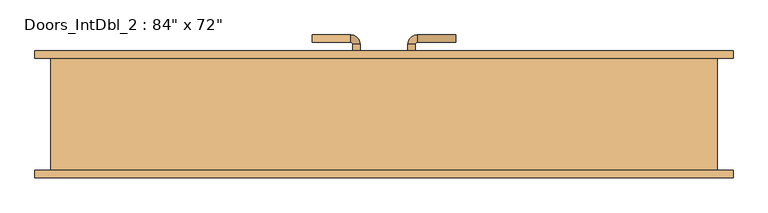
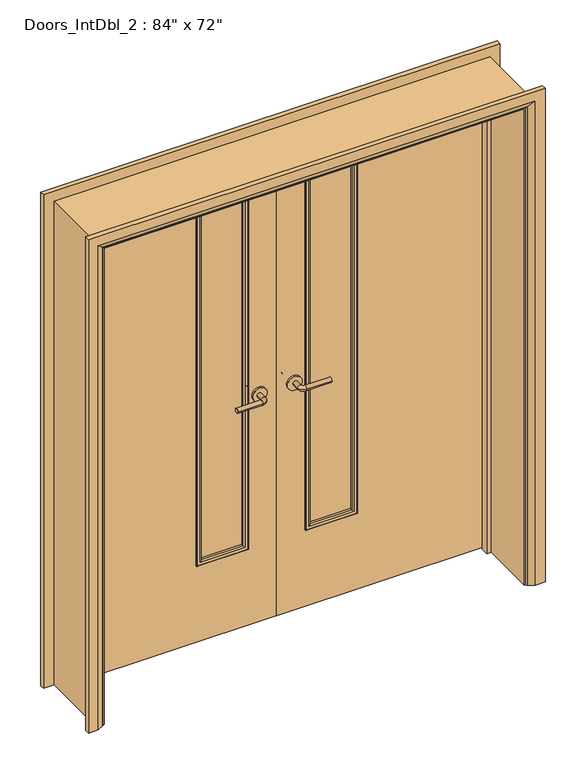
"""IFC4 building model written with IfcOpenShell, lengths in millimetres: door geometry."""

from ifc_helpers import new_model, si_unit, point, frame, frame_2d, origin, place, context, project, spatial, polyline, circle_curve, ellipse_curve, trimmed, segment, composite_curve, outline, extrude, faceted_brep, source, transform, mapped, element, save
from ifc_brep_helpers import plane_surface, cylinder_surface, revolved_surface, advanced_brep


def door_a87817a0(model_context):
    return source(origin(), model_context, "Body", "SolidModel", [
        advanced_brep(
        [(-65.0, 112.4, 1007.0), (-85.0, 112.4, 1007.0), (-65.0, 82.4, 1007.0), (-85.0, 82.4, 1007.0), (-90.0, 77.4, 1007.0), (-90.0, 57.4, 1007.0), (-195.0, 57.4, 1007.0), (-195.0, 77.4, 1007.0)],
        [
            (0, 1, circle_curve(frame((-75.0, 112.4, 1007.0), z_axis=(0.0, 1.0, 0.0), x_axis=(-1.0, 0.0, 0.0)), 10.0)),
            (1, 0, circle_curve(frame((-75.0, 112.4, 1007.0), z_axis=(0.0, 1.0, 0.0), x_axis=(-1.0, 0.0, 0.0)), 10.0)),
            (0, 2),
            (2, 3, circle_curve(frame((-75.0, 82.4, 1007.0), z_axis=(0.0, 1.0, 0.0), x_axis=(-1.0, 0.0, 0.0)), 10.0)),
            (3, 1),
            (3, 2, circle_curve(frame((-75.0, 82.4, 1007.0), z_axis=(0.0, 1.0, 0.0), x_axis=(-1.0, 0.0, 0.0)), 10.0)),
            (4, 3, circle_curve(frame((-90.0, 82.4, 1007.0), z_axis=(0.0, 0.0, 1.0), x_axis=(1.0, 0.0, 0.0)), 5.0)),
            (2, 5, circle_curve(frame((-90.0, 82.4, 1007.0), z_axis=(0.0, 0.0, -1.0), x_axis=(1.0, 0.0, 0.0)), 25.0)),
            (5, 4, circle_curve(frame((-90.0, 67.4, 1007.0), z_axis=(1.0, 0.0, 0.0), x_axis=(0.0, 1.0, 0.0)), 10.0)),
            (4, 5, circle_curve(frame((-90.0, 67.4, 1007.0), z_axis=(1.0, 0.0, 0.0), x_axis=(0.0, 1.0, 0.0)), 10.0)),
            (6, 7, circle_curve(frame((-195.0, 67.4, 1007.0), z_axis=(-1.0, 0.0, 0.0), x_axis=(0.0, 1.0, 0.0)), 10.0)),
            (7, 6, circle_curve(frame((-195.0, 67.4, 1007.0), z_axis=(-1.0, 0.0, 0.0), x_axis=(0.0, 1.0, 0.0)), 10.0)),
            (5, 6),
            (7, 4),
        ],
        [
            plane_surface(frame((-75.0, 112.4, 1007.0), z_axis=(0.0, 1.0, 0.0), x_axis=(0.0, 0.0, 1.0))),
            cylinder_surface(frame((-75.0, 112.4, 1007.0), z_axis=(0.0, 1.0, 0.0), x_axis=(-1.0, 0.0, 0.0)), 10.0),
            revolved_surface(trimmed(ellipse_curve(frame((-75.0, 82.4, 1007.0), z_axis=(0.0, 1.0, 0.0), x_axis=(-1.0, 0.0, 0.0)), 10.0, 10.0), [point((-65.0, 82.4, 1007.0))], [point((-85.0, 82.4, 1007.0))], True, "CARTESIAN"), (-90.0, 82.4, 1007.0), (0.0, 0.0, -1.0)),
            revolved_surface(trimmed(ellipse_curve(frame((-75.0, 82.4, 1007.0), z_axis=(0.0, 1.0, 0.0), x_axis=(-1.0, 0.0, 0.0)), 10.0, 10.0), [point((-85.0, 82.4, 1007.0))], [point((-65.0, 82.4, 1007.0))], True, "CARTESIAN"), (-90.0, 82.4, 1007.0), (0.0, 0.0, -1.0)),
            plane_surface(frame((-195.0, 67.4, 1007.0), z_axis=(-1.0, 0.0, 0.0), x_axis=(0.0, 0.0, 1.0))),
            cylinder_surface(frame((-90.0, 67.4, 1007.0), z_axis=(1.0, 0.0, 0.0), x_axis=(0.0, 1.0, 0.0)), 10.0),
        ],
        [
            (0, [[1, 2]]),
            (1, [[-1, 3, 4, 5]]),
            (1, [[-2, -5, 6, -3]]),
            (2, [[7, -4, 8, 9]]),
            (3, [[-8, -6, -7, 10]]),
            (4, [[11, 12]]),
            (5, [[-9, 13, -12, 14]]),
            (5, [[-10, -14, -11, -13]]),
        ],
    ),
        extrude(outline(composite_curve([segment(trimmed(circle_curve(frame_2d((1007.0, -72.5)), 30.0), [point((1007.0, -42.5))], [point((1007.0, -102.5))], False, "CARTESIAN"), True, "CONTINUOUS"), segment(trimmed(circle_curve(frame_2d((1007.0, -72.5)), 30.0), [point((1007.0, -102.5))], [point((1007.0, -42.5))], False, "CARTESIAN"), True, "CONTINUOUS")], self_intersect=False)), frame((0.0, 112.4, 0.0), z_axis=(0.0, 1.0, 0.0), x_axis=(0.0, 0.0, 1.0)), (0.0, 0.0, 1.0), 8.0),
        advanced_brep(
        [(-65.0, 160.4, 1007.0), (-85.0, 160.4, 1007.0), (-85.0, 190.4, 1007.0), (-65.0, 190.4, 1007.0), (-90.0, 195.4, 1007.0), (-90.0, 215.4, 1007.0), (-195.0, 215.4, 1007.0), (-195.0, 195.4, 1007.0)],
        [
            (0, 1, circle_curve(frame((-75.0, 160.4, 1007.0), z_axis=(0.0, -1.0, 0.0), x_axis=(-1.0, 0.0, 0.0)), 10.0)),
            (1, 0, circle_curve(frame((-75.0, 160.4, 1007.0), z_axis=(0.0, -1.0, 0.0), x_axis=(-1.0, 0.0, 0.0)), 10.0)),
            (1, 2),
            (2, 3, circle_curve(frame((-75.0, 190.4, 1007.0), z_axis=(0.0, -1.0, 0.0), x_axis=(-1.0, 0.0, 0.0)), 10.0)),
            (3, 0),
            (3, 2, circle_curve(frame((-75.0, 190.4, 1007.0), z_axis=(0.0, -1.0, 0.0), x_axis=(-1.0, 0.0, 0.0)), 10.0)),
            (4, 5, circle_curve(frame((-90.0, 205.4, 1007.0), z_axis=(1.0, 0.0, 0.0), x_axis=(0.0, -1.0, 0.0)), 10.0)),
            (5, 3, circle_curve(frame((-90.0, 190.4, 1007.0), z_axis=(0.0, 0.0, -1.0), x_axis=(1.0, 0.0, 0.0)), 25.0)),
            (2, 4, circle_curve(frame((-90.0, 190.4, 1007.0), z_axis=(0.0, 0.0, 1.0), x_axis=(1.0, 0.0, 0.0)), 5.0)),
            (5, 4, circle_curve(frame((-90.0, 205.4, 1007.0), z_axis=(1.0, 0.0, 0.0), x_axis=(0.0, -1.0, 0.0)), 10.0)),
            (6, 7, circle_curve(frame((-195.0, 205.4, 1007.0), z_axis=(-1.0, 0.0, 0.0), x_axis=(0.0, -1.0, 0.0)), 10.0)),
            (7, 6, circle_curve(frame((-195.0, 205.4, 1007.0), z_axis=(-1.0, 0.0, 0.0), x_axis=(0.0, -1.0, 0.0)), 10.0)),
            (4, 7),
            (6, 5),
        ],
        [
            plane_surface(frame((-75.0, 160.4, 1007.0), z_axis=(0.0, -1.0, 0.0), x_axis=(0.0, 0.0, 1.0))),
            cylinder_surface(frame((-75.0, 160.4, 1007.0), z_axis=(0.0, -1.0, 0.0), x_axis=(-1.0, 0.0, 0.0)), 10.0),
            revolved_surface(trimmed(ellipse_curve(frame((-75.0, 190.4, 1007.0), z_axis=(0.0, 1.0, 0.0), x_axis=(-1.0, 0.0, 0.0)), 10.0, 10.0), [point((-65.0, 190.4, 1007.0))], [point((-85.0, 190.4, 1007.0))], True, "CARTESIAN"), (-90.0, 190.4, 1007.0), (0.0, 0.0, -1.0)),
            revolved_surface(trimmed(ellipse_curve(frame((-75.0, 190.4, 1007.0), z_axis=(0.0, 1.0, 0.0), x_axis=(-1.0, 0.0, 0.0)), 10.0, 10.0), [point((-85.0, 190.4, 1007.0))], [point((-65.0, 190.4, 1007.0))], True, "CARTESIAN"), (-90.0, 190.4, 1007.0), (0.0, 0.0, -1.0)),
            plane_surface(frame((-195.0, 205.4, 1007.0), z_axis=(-1.0, 0.0, 0.0), x_axis=(0.0, 0.0, 1.0))),
            cylinder_surface(frame((-90.0, 205.4, 1007.0), z_axis=(1.0, 0.0, 0.0), x_axis=(0.0, -1.0, 0.0)), 10.0),
        ],
        [
            (0, [[1, 2]]),
            (1, [[3, 4, 5, -2]]),
            (1, [[-5, 6, -3, -1]]),
            (2, [[7, 8, -4, 9]]),
            (3, [[10, -9, -6, -8]]),
            (4, [[11, 12]]),
            (5, [[13, -11, 14, -7]]),
            (5, [[-14, -12, -13, -10]]),
        ],
    ),
        extrude(outline(composite_curve([segment(trimmed(circle_curve(frame_2d((1007.0, -72.5)), 30.0), [point((1007.0, -42.5))], [point((1007.0, -102.5))], False, "CARTESIAN"), True, "CONTINUOUS"), segment(trimmed(circle_curve(frame_2d((1007.0, -72.5)), 30.0), [point((1007.0, -102.5))], [point((1007.0, -42.5))], False, "CARTESIAN"), True, "CONTINUOUS")], self_intersect=False)), frame((0.0, 152.4, 0.0), z_axis=(0.0, 1.0, 0.0), x_axis=(0.0, 0.0, 1.0)), (0.0, 0.0, 1.0), 8.0),
        advanced_brep(
        [(65.0, 112.4, 1007.0), (85.0, 112.4, 1007.0), (85.0, 82.4, 1007.0), (65.0, 82.4, 1007.0), (90.0, 77.4, 1007.0), (90.0, 57.4, 1007.0), (195.0, 57.4, 1007.0), (195.0, 77.4, 1007.0)],
        [
            (0, 1, circle_curve(frame((75.0, 112.4, 1007.0), z_axis=(0.0, 1.0, 0.0), x_axis=(1.0, 0.0, 0.0)), 10.0)),
            (1, 0, circle_curve(frame((75.0, 112.4, 1007.0), z_axis=(0.0, 1.0, 0.0), x_axis=(1.0, 0.0, 0.0)), 10.0)),
            (1, 2),
            (2, 3, circle_curve(frame((75.0, 82.4, 1007.0), z_axis=(0.0, 1.0, 0.0), x_axis=(1.0, 0.0, 0.0)), 10.0)),
            (3, 0),
            (3, 2, circle_curve(frame((75.0, 82.4, 1007.0), z_axis=(0.0, 1.0, 0.0), x_axis=(1.0, 0.0, 0.0)), 10.0)),
            (4, 5, circle_curve(frame((90.0, 67.4, 1007.0), z_axis=(-1.0, 0.0, 0.0), x_axis=(0.0, 1.0, 0.0)), 10.0)),
            (5, 3, circle_curve(frame((90.0, 82.4, 1007.0), z_axis=(0.0, 0.0, -1.0), x_axis=(-1.0, 0.0, 0.0)), 25.0)),
            (2, 4, circle_curve(frame((90.0, 82.4, 1007.0), z_axis=(0.0, 0.0, 1.0), x_axis=(-1.0, 0.0, 0.0)), 5.0)),
            (5, 4, circle_curve(frame((90.0, 67.4, 1007.0), z_axis=(-1.0, 0.0, 0.0), x_axis=(0.0, 1.0, 0.0)), 10.0)),
            (6, 7, circle_curve(frame((195.0, 67.4, 1007.0), z_axis=(1.0, 0.0, 0.0), x_axis=(0.0, 1.0, 0.0)), 10.0)),
            (7, 6, circle_curve(frame((195.0, 67.4, 1007.0), z_axis=(1.0, 0.0, 0.0), x_axis=(0.0, 1.0, 0.0)), 10.0)),
            (4, 7),
            (6, 5),
        ],
        [
            plane_surface(frame((75.0, 112.4, 1007.0), z_axis=(0.0, 1.0, 0.0), x_axis=(0.0, 0.0, 1.0))),
            cylinder_surface(frame((75.0, 112.4, 1007.0), z_axis=(0.0, 1.0, 0.0), x_axis=(1.0, 0.0, 0.0)), 10.0),
            revolved_surface(trimmed(ellipse_curve(frame((75.0, 82.4, 1007.0), z_axis=(0.0, -1.0, 0.0), x_axis=(1.0, 0.0, 0.0)), 10.0, 10.0), [point((65.0, 82.4, 1007.0))], [point((85.0, 82.4, 1007.0))], True, "CARTESIAN"), (90.0, 82.4, 1007.0), (0.0, 0.0, -1.0)),
            revolved_surface(trimmed(ellipse_curve(frame((75.0, 82.4, 1007.0), z_axis=(0.0, -1.0, 0.0), x_axis=(1.0, 0.0, 0.0)), 10.0, 10.0), [point((85.0, 82.4, 1007.0))], [point((65.0, 82.4, 1007.0))], True, "CARTESIAN"), (90.0, 82.4, 1007.0), (0.0, 0.0, -1.0)),
            plane_surface(frame((195.0, 67.4, 1007.0), z_axis=(1.0, 0.0, 0.0), x_axis=(0.0, 0.0, 1.0))),
            cylinder_surface(frame((90.0, 67.4, 1007.0), z_axis=(-1.0, 0.0, 0.0), x_axis=(0.0, 1.0, 0.0)), 10.0),
        ],
        [
            (0, [[1, 2]]),
            (1, [[3, 4, 5, -2]]),
            (1, [[-5, 6, -3, -1]]),
            (2, [[7, 8, -4, 9]]),
            (3, [[10, -9, -6, -8]]),
            (4, [[11, 12]]),
            (5, [[13, -11, 14, -7]]),
            (5, [[-14, -12, -13, -10]]),
        ],
    ),
        extrude(outline(composite_curve([segment(trimmed(circle_curve(frame_2d((1007.0, 72.5)), 30.0), [point((1007.0, 42.5))], [point((1007.0, 102.5))], False, "CARTESIAN"), True, "CONTINUOUS"), segment(trimmed(circle_curve(frame_2d((1007.0, 72.5)), 30.0), [point((1007.0, 102.5))], [point((1007.0, 42.5))], False, "CARTESIAN"), True, "CONTINUOUS")], self_intersect=False)), frame((0.0, 112.4, 0.0), z_axis=(0.0, 1.0, 0.0), x_axis=(0.0, 0.0, 1.0)), (0.0, 0.0, 1.0), 8.0),
        advanced_brep(
        [(65.0, 160.4, 1007.0), (85.0, 160.4, 1007.0), (65.0, 190.4, 1007.0), (85.0, 190.4, 1007.0), (90.0, 195.4, 1007.0), (90.0, 215.4, 1007.0), (195.0, 215.4, 1007.0), (195.0, 195.4, 1007.0)],
        [
            (0, 1, circle_curve(frame((75.0, 160.4, 1007.0), z_axis=(0.0, -1.0, 0.0), x_axis=(1.0, 0.0, 0.0)), 10.0)),
            (1, 0, circle_curve(frame((75.0, 160.4, 1007.0), z_axis=(0.0, -1.0, 0.0), x_axis=(1.0, 0.0, 0.0)), 10.0)),
            (0, 2),
            (2, 3, circle_curve(frame((75.0, 190.4, 1007.0), z_axis=(0.0, -1.0, 0.0), x_axis=(1.0, 0.0, 0.0)), 10.0)),
            (3, 1),
            (3, 2, circle_curve(frame((75.0, 190.4, 1007.0), z_axis=(0.0, -1.0, 0.0), x_axis=(1.0, 0.0, 0.0)), 10.0)),
            (4, 3, circle_curve(frame((90.0, 190.4, 1007.0), z_axis=(0.0, 0.0, 1.0), x_axis=(-1.0, 0.0, 0.0)), 5.0)),
            (2, 5, circle_curve(frame((90.0, 190.4, 1007.0), z_axis=(0.0, 0.0, -1.0), x_axis=(-1.0, 0.0, 0.0)), 25.0)),
            (5, 4, circle_curve(frame((90.0, 205.4, 1007.0), z_axis=(-1.0, 0.0, 0.0), x_axis=(0.0, -1.0, 0.0)), 10.0)),
            (4, 5, circle_curve(frame((90.0, 205.4, 1007.0), z_axis=(-1.0, 0.0, 0.0), x_axis=(0.0, -1.0, 0.0)), 10.0)),
            (6, 7, circle_curve(frame((195.0, 205.4, 1007.0), z_axis=(1.0, 0.0, 0.0), x_axis=(0.0, -1.0, 0.0)), 10.0)),
            (7, 6, circle_curve(frame((195.0, 205.4, 1007.0), z_axis=(1.0, 0.0, 0.0), x_axis=(0.0, -1.0, 0.0)), 10.0)),
            (5, 6),
            (7, 4),
        ],
        [
            plane_surface(frame((75.0, 160.4, 1007.0), z_axis=(0.0, -1.0, 0.0), x_axis=(0.0, 0.0, 1.0))),
            cylinder_surface(frame((75.0, 160.4, 1007.0), z_axis=(0.0, -1.0, 0.0), x_axis=(1.0, 0.0, 0.0)), 10.0),
            revolved_surface(trimmed(ellipse_curve(frame((75.0, 190.4, 1007.0), z_axis=(0.0, -1.0, 0.0), x_axis=(1.0, 0.0, 0.0)), 10.0, 10.0), [point((65.0, 190.4, 1007.0))], [point((85.0, 190.4, 1007.0))], True, "CARTESIAN"), (90.0, 190.4, 1007.0), (0.0, 0.0, -1.0)),
            revolved_surface(trimmed(ellipse_curve(frame((75.0, 190.4, 1007.0), z_axis=(0.0, -1.0, 0.0), x_axis=(1.0, 0.0, 0.0)), 10.0, 10.0), [point((85.0, 190.4, 1007.0))], [point((65.0, 190.4, 1007.0))], True, "CARTESIAN"), (90.0, 190.4, 1007.0), (0.0, 0.0, -1.0)),
            plane_surface(frame((195.0, 205.4, 1007.0), z_axis=(1.0, 0.0, 0.0), x_axis=(0.0, 0.0, 1.0))),
            cylinder_surface(frame((90.0, 205.4, 1007.0), z_axis=(-1.0, 0.0, 0.0), x_axis=(0.0, -1.0, 0.0)), 10.0),
        ],
        [
            (0, [[1, 2]]),
            (1, [[-1, 3, 4, 5]]),
            (1, [[-2, -5, 6, -3]]),
            (2, [[7, -4, 8, 9]]),
            (3, [[-8, -6, -7, 10]]),
            (4, [[11, 12]]),
            (5, [[-9, 13, -12, 14]]),
            (5, [[-10, -14, -11, -13]]),
        ],
    ),
        extrude(outline(composite_curve([segment(trimmed(circle_curve(frame_2d((1007.0, 72.5)), 30.0), [point((1007.0, 42.5))], [point((1007.0, 102.5))], False, "CARTESIAN"), True, "CONTINUOUS"), segment(trimmed(circle_curve(frame_2d((1007.0, 72.5)), 30.0), [point((1007.0, 102.5))], [point((1007.0, 42.5))], False, "CARTESIAN"), True, "CONTINUOUS")], self_intersect=False)), frame((0.0, 152.4, 0.0), z_axis=(0.0, 1.0, 0.0), x_axis=(0.0, 0.0, 1.0)), (0.0, 0.0, 1.0), 8.0),
        advanced_brep(
        [(-949.4, -172.4, 0.0), (-949.4, -152.4, 0.0), (-879.4, -152.4, 0.0), (-883.4, -158.4, 0.0), (-909.4, -172.4, 0.0), (-949.4, -172.4, 2168.6), (-949.4, -152.4, 2168.6), (949.4, -152.4, 2168.6), (949.4, -152.4, 0.0), (879.4, -152.4, 0.0), (879.4, -152.4, 2098.6), (-879.4, -152.4, 2098.6), (-883.4, -158.4, 2102.6), (-909.4, -172.4, 2128.6), (909.4, -172.4, 2128.6), (909.4, -172.4, 0.0), (949.4, -172.4, 0.0), (949.4, -172.4, 2168.6), (883.4, -158.4, 0.0), (883.4, -158.4, 2102.6)],
        [
            (0, 1),
            (1, 2),
            (2, 3, circle_curve(frame((-887.4, -151.4, 0.0), z_axis=(0.0, 0.0, -1.0), x_axis=(-1.0, 0.0, 0.0)), 8.0622577)),
            (3, 4),
            (4, 0),
            (0, 5),
            (5, 6),
            (6, 1),
            (6, 7),
            (7, 8),
            (8, 9),
            (9, 10),
            (10, 11),
            (11, 2),
            (11, 12, ellipse_curve(frame((-887.4, -151.4, 2106.6), z_axis=(-0.7071067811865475, 0.0, -0.7071067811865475), x_axis=(0.7071067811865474, 0.0, -0.7071067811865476)), 11.4017543, 8.0622577)),
            (12, 3),
            (12, 13),
            (13, 4),
            (13, 14),
            (14, 15),
            (15, 16),
            (16, 17),
            (17, 5),
            (7, 17),
            (16, 8),
            (15, 18),
            (18, 9, circle_curve(frame((887.4, -151.4, 0.0), z_axis=(0.0, 0.0, -1.0), x_axis=(1.0, 0.0, 0.0)), 8.0622577)),
            (19, 10, ellipse_curve(frame((887.4, -151.4, 2106.6), z_axis=(0.7071067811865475, 0.0, -0.7071067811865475), x_axis=(0.7071067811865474, 0.0, 0.7071067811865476)), 11.4017543, 8.0622577)),
            (18, 19),
            (14, 19),
            (19, 12),
        ],
        [
            plane_surface(frame((-879.4, -152.4, 0.0), z_axis=(0.0, 0.0, -1.0), x_axis=(0.0, -1.0, 0.0))),
            plane_surface(frame((-949.4, -172.4, 0.0), z_axis=(-1.0, 0.0, 0.0), x_axis=(0.0, 0.0, 1.0))),
            plane_surface(frame((-949.4, -152.4, 0.0), z_axis=(0.0, 1.0, 0.0), x_axis=(0.0, 0.0, 1.0))),
            cylinder_surface(frame((-887.4, -151.4, 0.0), z_axis=(0.0, 0.0, -1.0), x_axis=(-1.0, 0.0, 0.0)), 8.0622577),
            plane_surface(frame((-883.4, -158.4, 0.0), z_axis=(0.4740998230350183, -0.8804710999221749, 0.0), x_axis=(0.0, 0.0, 1.0))),
            plane_surface(frame((-909.4, -172.4, 0.0), z_axis=(0.0, -1.0, 0.0), x_axis=(0.0, 0.0, 1.0))),
            plane_surface(frame((949.4, -172.4, 2168.6), z_axis=(1.0, 0.0, 0.0), x_axis=(0.0, 0.0, -1.0))),
            plane_surface(frame((879.4, -152.4, 0.0), z_axis=(0.0, 0.0, -1.0), x_axis=(0.0, -1.0, 0.0))),
            cylinder_surface(frame((887.4, -151.4, 2098.6), z_axis=(0.0, 0.0, 1.0), x_axis=(1.0, 0.0, 0.0)), 8.0622577),
            plane_surface(frame((883.4, -158.4, 2102.6), z_axis=(-0.4740998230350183, -0.8804710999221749, 0.0), x_axis=(0.0, 0.0, -1.0))),
            plane_surface(frame((-949.4, -172.4, 2168.6), z_axis=(0.0, 0.0, 1.0), x_axis=(1.0, 0.0, 0.0))),
            cylinder_surface(frame((-879.4, -151.4, 2106.6), z_axis=(-1.0, 0.0, 0.0), x_axis=(0.0, 0.0, 1.0)), 8.0622577),
            plane_surface(frame((-883.4, -158.4, 2102.6), z_axis=(0.0, -0.8804710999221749, -0.4740998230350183), x_axis=(1.0, 0.0, 0.0))),
        ],
        [
            (0, [[1, 2, 3, 4, 5]]),
            (1, [[-1, 6, 7, 8]]),
            (2, [[-2, -8, 9, 10, 11, 12, 13, 14]]),
            (3, [[-3, -14, 15, 16]]),
            (4, [[-4, -16, 17, 18]]),
            (5, [[-5, -18, 19, 20, 21, 22, 23, -6]]),
            (6, [[24, -22, 25, -10]]),
            (7, [[-21, 26, 27, -11, -25]]),
            (8, [[28, -12, -27, 29]]),
            (9, [[30, -29, -26, -20]]),
            (10, [[-7, -23, -24, -9]]),
            (11, [[-15, -13, -28, 31]]),
            (12, [[-17, -31, -30, -19]]),
        ],
    ),
        advanced_brep(
        [(949.4, 172.4, 0.0), (949.4, 152.4, 0.0), (879.4, 152.4, 0.0), (883.4, 158.4, 0.0), (909.4, 172.4, 0.0), (949.4, 172.4, 2168.6), (949.4, 152.4, 2168.6), (-949.4, 152.4, 2168.6), (-949.4, 152.4, 0.0), (-879.4, 152.4, 0.0), (-879.4, 152.4, 2098.6), (879.4, 152.4, 2098.6), (883.4, 158.4, 2102.6), (909.4, 172.4, 2128.6), (-909.4, 172.4, 2128.6), (-909.4, 172.4, 0.0), (-949.4, 172.4, 0.0), (-949.4, 172.4, 2168.6), (-883.4, 158.4, 0.0), (-883.4, 158.4, 2102.6)],
        [
            (0, 1),
            (1, 2),
            (2, 3, circle_curve(frame((887.4, 151.4, 0.0), z_axis=(0.0, 0.0, -1.0), x_axis=(1.0, 0.0, 0.0)), 8.0622577)),
            (3, 4),
            (4, 0),
            (0, 5),
            (5, 6),
            (6, 1),
            (6, 7),
            (7, 8),
            (8, 9),
            (9, 10),
            (10, 11),
            (11, 2),
            (11, 12, ellipse_curve(frame((887.4, 151.4, 2106.6), z_axis=(0.7071067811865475, 0.0, -0.7071067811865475), x_axis=(-0.7071067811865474, 0.0, -0.7071067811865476)), 11.4017543, 8.0622577)),
            (12, 3),
            (12, 13),
            (13, 4),
            (13, 14),
            (14, 15),
            (15, 16),
            (16, 17),
            (17, 5),
            (7, 17),
            (16, 8),
            (15, 18),
            (18, 9, circle_curve(frame((-887.4, 151.4, 0.0), z_axis=(0.0, 0.0, -1.0), x_axis=(-1.0, 0.0, 0.0)), 8.0622577)),
            (19, 10, ellipse_curve(frame((-887.4, 151.4, 2106.6), z_axis=(-0.7071067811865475, 0.0, -0.7071067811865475), x_axis=(-0.7071067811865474, 0.0, 0.7071067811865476)), 11.4017543, 8.0622577)),
            (18, 19),
            (14, 19),
            (19, 12),
        ],
        [
            plane_surface(frame((879.4, 152.4, 0.0), z_axis=(0.0, 0.0, -1.0), x_axis=(0.0, -1.0, 0.0))),
            plane_surface(frame((949.4, 172.4, 0.0), z_axis=(1.0, 0.0, 0.0), x_axis=(0.0, 0.0, 1.0))),
            plane_surface(frame((949.4, 152.4, 0.0), z_axis=(0.0, -1.0, 0.0), x_axis=(0.0, 0.0, 1.0))),
            cylinder_surface(frame((887.4, 151.4, 0.0), z_axis=(0.0, 0.0, -1.0), x_axis=(1.0, 0.0, 0.0)), 8.0622577),
            plane_surface(frame((883.4, 158.4, 0.0), z_axis=(-0.4740998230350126, 0.8804710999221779, 0.0), x_axis=(0.0, 0.0, 1.0))),
            plane_surface(frame((909.4, 172.4, 0.0), z_axis=(0.0, 1.0, 0.0), x_axis=(0.0, 0.0, 1.0))),
            plane_surface(frame((-949.4, 172.4, 2168.6), z_axis=(-1.0, 0.0, 0.0), x_axis=(0.0, 0.0, -1.0))),
            plane_surface(frame((-879.4, 152.4, 0.0), z_axis=(0.0, 0.0, -1.0), x_axis=(0.0, -1.0, 0.0))),
            cylinder_surface(frame((-887.4, 151.4, 2098.6), z_axis=(0.0, 0.0, 1.0), x_axis=(-1.0, 0.0, 0.0)), 8.0622577),
            plane_surface(frame((-883.4, 158.4, 2102.6), z_axis=(0.4740998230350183, 0.8804710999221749, 0.0), x_axis=(0.0, 0.0, -1.0))),
            plane_surface(frame((949.4, 172.4, 2168.6), z_axis=(0.0, 0.0, 1.0), x_axis=(-1.0, 0.0, 0.0))),
            cylinder_surface(frame((879.4, 151.4, 2106.6), z_axis=(1.0, 0.0, 0.0), x_axis=(0.0, 0.0, 1.0)), 8.0622577),
            plane_surface(frame((883.4, 158.4, 2102.6), z_axis=(0.0, 0.8804710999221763, -0.4740998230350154), x_axis=(-1.0, 0.0, 0.0))),
        ],
        [
            (0, [[1, 2, 3, 4, 5]]),
            (1, [[-1, 6, 7, 8]]),
            (2, [[-2, -8, 9, 10, 11, 12, 13, 14]]),
            (3, [[-3, -14, 15, 16]]),
            (4, [[-4, -16, 17, 18]]),
            (5, [[-5, -18, 19, 20, 21, 22, 23, -6]]),
            (6, [[24, -22, 25, -10]]),
            (7, [[-21, 26, 27, -11, -25]]),
            (8, [[28, -12, -27, 29]]),
            (9, [[30, -29, -26, -20]]),
            (10, [[-7, -23, -24, -9]]),
            (11, [[-15, -13, -28, 31]]),
            (12, [[-17, -31, -30, -19]]),
        ],
    ),
        faceted_brep([(-855.4, 117.4, 0.0), (-855.4, 85.4, 0.0), (-874.4, 85.4, 0.0), (-874.4, 117.4, 0.0), (-855.4, 117.4, 2074.6), (-855.4, 85.4, 2074.6), (-874.4, 85.4, 2093.6), (-874.4, 117.4, 2093.6), (855.4, 117.4, 0.0), (874.4, 117.4, 0.0), (874.4, 85.4, 0.0), (855.4, 85.4, 0.0), (855.4, 117.4, 2074.6), (874.4, 117.4, 2093.6), (874.4, 85.4, 2093.6), (855.4, 85.4, 2074.6)], [[[0, 1, 2, 3]], [[1, 0, 4, 5]], [[2, 1, 5, 6]], [[3, 2, 6, 7]], [[0, 3, 7, 4]], [[8, 9, 10, 11]], [[12, 13, 9, 8]], [[13, 14, 10, 9]], [[14, 15, 11, 10]], [[15, 12, 8, 11]], [[5, 4, 12, 15]], [[6, 5, 15, 14]], [[7, 6, 14, 13]], [[4, 7, 13, 12]]]),
        extrude(outline(polyline([(2125.6, -906.4), (0.0, -906.4), (0.0, -874.4), (2093.6, -874.4), (2093.6, 874.4), (0.0, 874.4), (0.0, 906.4), (2125.6, 906.4), (2125.6, -906.4)])), frame((0.0, -152.4, 0.0), z_axis=(0.0, 1.0, 0.0), x_axis=(0.0, 0.0, 1.0)), (0.0, 0.0, 1.0), 304.8),
        extrude(outline(polyline([(326.5, 130.4), (126.5, 130.4), (126.5, 142.4), (326.5, 142.4), (326.5, 130.4)])), frame((0.0, 0.0, 350.0), z_axis=(0.0, 0.0, 1.0), x_axis=(1.0, 0.0, 0.0)), (0.0, 0.0, 1.0), 1558.6),
        extrude(outline(polyline([(-126.5, 130.4), (-326.5, 130.4), (-326.5, 142.4), (-126.5, 142.4), (-126.5, 130.4)])), frame((0.0, 0.0, 350.0), z_axis=(0.0, 0.0, 1.0), x_axis=(1.0, 0.0, 0.0)), (0.0, 0.0, 1.0), 1558.6),
        extrude(outline(polyline([(5.753223, -871.4), (5.753223, -1.5), (2090.6, -1.5), (2090.6, -871.4), (5.753223, -871.4)]), holes=[polyline([(1908.6, -326.5), (1908.6, -126.5), (350.0, -126.5), (350.0, -326.5), (1908.6, -326.5)])]), frame((0.0, 120.4, 0.0), z_axis=(0.0, 1.0, 0.0), x_axis=(0.0, 0.0, 1.0)), (0.0, 0.0, 1.0), 32.0),
        extrude(outline(polyline([(5.753223, 871.4), (2090.6, 871.4), (2090.6, 1.5), (5.753223, 1.5), (5.753223, 871.4)]), holes=[polyline([(1908.6, 126.5), (1908.6, 326.5), (350.0, 326.5), (350.0, 126.5), (1908.6, 126.5)])]), frame((0.0, 120.4, 0.0), z_axis=(0.0, 1.0, 0.0), x_axis=(0.0, 0.0, 1.0)), (0.0, 0.0, 1.0), 32.0),
        advanced_brep(
        [(326.5, 130.4, 1908.6), (326.5, 120.4, 1908.6), (326.5, 120.4, 350.0), (326.5, 130.4, 350.0), (314.5, 119.4, 1896.6), (314.5, 130.4, 1896.6), (314.5, 130.4, 362.0), (314.5, 119.4, 362.0), (319.5, 114.4, 1901.6), (319.5, 114.4, 357.0), (334.5, 116.4, 1916.6), (332.5, 114.4, 1914.6), (332.5, 114.4, 344.0), (334.5, 116.4, 342.0), (334.5, 120.4, 1916.6), (334.5, 120.4, 342.0), (126.5, 120.4, 350.0), (126.5, 130.4, 350.0), (138.5, 130.4, 362.0), (138.5, 119.4, 362.0), (133.5, 114.4, 357.0), (120.5, 114.4, 344.0), (118.5, 116.4, 342.0), (118.5, 120.4, 342.0), (126.5, 120.4, 1908.6), (126.5, 130.4, 1908.6), (138.5, 130.4, 1896.6), (138.5, 119.4, 1896.6), (133.5, 114.4, 1901.6), (120.5, 114.4, 1914.6), (118.5, 116.4, 1916.6), (118.5, 120.4, 1916.6)],
        [
            (0, 1),
            (1, 2),
            (2, 3),
            (3, 0),
            (4, 5),
            (5, 6),
            (6, 7),
            (7, 4),
            (8, 4, ellipse_curve(frame((319.5, 119.4, 1901.6), z_axis=(0.7071067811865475, 0.0, -0.7071067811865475), x_axis=(0.7071067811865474, 0.0, 0.7071067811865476)), 7.0710678, 5.0)),
            (7, 9, ellipse_curve(frame((319.5, 119.4, 357.0), z_axis=(0.7071067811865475, 0.0, 0.7071067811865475), x_axis=(-0.7071067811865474, 0.0, 0.7071067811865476)), 7.0710678, 5.0)),
            (9, 8),
            (10, 11, ellipse_curve(frame((332.5, 116.4, 1914.6), z_axis=(0.7071067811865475, 0.0, -0.7071067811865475), x_axis=(0.7071067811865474, 0.0, 0.7071067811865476)), 2.8284271, 2.0)),
            (11, 12),
            (12, 13, ellipse_curve(frame((332.5, 116.4, 344.0), z_axis=(0.7071067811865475, 0.0, 0.7071067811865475), x_axis=(-0.7071067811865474, 0.0, 0.7071067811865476)), 2.8284271, 2.0)),
            (13, 10),
            (14, 10),
            (13, 15),
            (15, 14),
            (2, 16),
            (16, 17),
            (17, 3),
            (6, 18),
            (18, 19),
            (19, 7),
            (19, 20, ellipse_curve(frame((133.5, 119.4, 357.0), z_axis=(0.7071067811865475, 0.0, -0.7071067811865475), x_axis=(0.7071067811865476, 0.0, 0.7071067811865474)), 7.0710678, 5.0)),
            (20, 9),
            (12, 21),
            (21, 22, ellipse_curve(frame((120.5, 116.4, 344.0), z_axis=(0.7071067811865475, 0.0, -0.7071067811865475), x_axis=(0.7071067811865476, 0.0, 0.7071067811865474)), 2.8284271, 2.0)),
            (22, 13),
            (22, 23),
            (23, 15),
            (16, 24),
            (24, 25),
            (25, 17),
            (18, 26),
            (26, 27),
            (27, 19),
            (27, 28, ellipse_curve(frame((133.5, 119.4, 1901.6), z_axis=(-0.7071067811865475, 0.0, -0.7071067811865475), x_axis=(0.7071067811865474, 0.0, -0.7071067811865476)), 7.0710678, 5.0)),
            (28, 20),
            (21, 29),
            (29, 30, ellipse_curve(frame((120.5, 116.4, 1914.6), z_axis=(-0.7071067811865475, 0.0, -0.7071067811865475), x_axis=(0.7071067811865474, 0.0, -0.7071067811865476)), 2.8284271, 2.0)),
            (30, 22),
            (30, 31),
            (31, 23),
            (31, 14),
            (1, 24),
            (0, 25),
            (5, 26),
            (4, 27),
            (8, 28),
            (11, 29),
            (10, 30),
        ],
        [
            plane_surface(frame((326.5, 120.4, 1908.6), z_axis=(1.0, 0.0, 0.0), x_axis=(0.0, 0.0, -1.0))),
            plane_surface(frame((314.5, 130.4, 1896.6), z_axis=(-1.0, 0.0, 0.0), x_axis=(0.0, 0.0, -1.0))),
            cylinder_surface(frame((319.5, 119.4, 1908.6), z_axis=(0.0, 0.0, 1.0), x_axis=(1.0, 0.0, 0.0)), 5.0),
            cylinder_surface(frame((332.5, 116.4, 1908.6), z_axis=(0.0, 0.0, 1.0), x_axis=(1.0, 0.0, 0.0)), 2.0),
            plane_surface(frame((334.5, 116.4, 1916.6), z_axis=(1.0, 0.0, 0.0), x_axis=(0.0, 0.0, -1.0))),
            plane_surface(frame((326.5, 120.4, 350.0), z_axis=(0.0, 0.0, -1.0), x_axis=(-1.0, 0.0, 0.0))),
            plane_surface(frame((314.5, 130.4, 362.0), z_axis=(0.0, 0.0, 1.0), x_axis=(-1.0, 0.0, 0.0))),
            cylinder_surface(frame((326.5, 119.4, 357.0), z_axis=(1.0, 0.0, 0.0), x_axis=(0.0, 0.0, -1.0)), 5.0),
            cylinder_surface(frame((326.5, 116.4, 344.0), z_axis=(1.0, 0.0, 0.0), x_axis=(0.0, 0.0, -1.0)), 2.0),
            plane_surface(frame((334.5, 116.4, 342.0), z_axis=(0.0, 0.0, -1.0), x_axis=(-1.0, 0.0, 0.0))),
            plane_surface(frame((126.5, 120.4, 350.0), z_axis=(-1.0, 0.0, 0.0), x_axis=(0.0, 0.0, 1.0))),
            plane_surface(frame((138.5, 130.4, 362.0), z_axis=(1.0, 0.0, 0.0), x_axis=(0.0, 0.0, 1.0))),
            cylinder_surface(frame((133.5, 119.4, 350.0), z_axis=(0.0, 0.0, -1.0), x_axis=(-1.0, 0.0, 0.0)), 5.0),
            cylinder_surface(frame((120.5, 116.4, 350.0), z_axis=(0.0, 0.0, -1.0), x_axis=(-1.0, 0.0, 0.0)), 2.0),
            plane_surface(frame((118.5, 116.4, 342.0), z_axis=(-1.0, 0.0, 0.0), x_axis=(0.0, 0.0, 1.0))),
            plane_surface(frame((118.5, 120.4, 1916.6), z_axis=(0.0, 1.0, 0.0), x_axis=(1.0, 0.0, 0.0))),
            plane_surface(frame((126.5, 120.4, 1908.6), z_axis=(0.0, 0.0, 1.0), x_axis=(1.0, 0.0, 0.0))),
            plane_surface(frame((126.5, 130.4, 1908.6), z_axis=(0.0, 1.0, 0.0), x_axis=(1.0, 0.0, 0.0))),
            plane_surface(frame((138.5, 130.4, 1896.6), z_axis=(0.0, 0.0, -1.0), x_axis=(1.0, 0.0, 0.0))),
            cylinder_surface(frame((126.5, 119.4, 1901.6), z_axis=(-1.0, 0.0, 0.0), x_axis=(0.0, 0.0, 1.0)), 5.0),
            plane_surface(frame((133.5, 114.4, 1901.6), z_axis=(0.0, -1.0, 0.0), x_axis=(1.0, 0.0, 0.0))),
            cylinder_surface(frame((126.5, 116.4, 1914.6), z_axis=(-1.0, 0.0, 0.0), x_axis=(0.0, 0.0, 1.0)), 2.0),
            plane_surface(frame((118.5, 116.4, 1916.6), z_axis=(0.0, 0.0, 1.0), x_axis=(1.0, 0.0, 0.0))),
        ],
        [
            (0, [[1, 2, 3, 4]]),
            (1, [[5, 6, 7, 8]]),
            (2, [[9, -8, 10, 11]]),
            (3, [[12, 13, 14, 15]]),
            (4, [[16, -15, 17, 18]]),
            (5, [[-3, 19, 20, 21]]),
            (6, [[-7, 22, 23, 24]]),
            (7, [[-10, -24, 25, 26]]),
            (8, [[-14, 27, 28, 29]]),
            (9, [[-17, -29, 30, 31]]),
            (10, [[-20, 32, 33, 34]]),
            (11, [[-23, 35, 36, 37]]),
            (12, [[-25, -37, 38, 39]]),
            (13, [[-28, 40, 41, 42]]),
            (14, [[-30, -42, 43, 44]]),
            (15, [[-31, -44, 45, -18], [46, -32, -19, -2]]),
            (16, [[-33, -46, -1, 47]]),
            (17, [[-21, -34, -47, -4], [48, -35, -22, -6]]),
            (18, [[-36, -48, -5, 49]]),
            (19, [[-38, -49, -9, 50]]),
            (20, [[51, -40, -27, -13], [-26, -39, -50, -11]]),
            (21, [[-41, -51, -12, 52]]),
            (22, [[-43, -52, -16, -45]]),
        ],
    ),
        advanced_brep(
        [(-326.5, 130.4, 350.0), (-326.5, 120.4, 350.0), (-326.5, 120.4, 1908.6), (-326.5, 130.4, 1908.6), (-314.5, 119.4, 362.0), (-314.5, 130.4, 362.0), (-314.5, 130.4, 1896.6), (-314.5, 119.4, 1896.6), (-319.5, 114.4, 357.0), (-319.5, 114.4, 1901.6), (-334.5, 116.4, 342.0), (-332.5, 114.4, 344.0), (-332.5, 114.4, 1914.6), (-334.5, 116.4, 1916.6), (-334.5, 120.4, 342.0), (-334.5, 120.4, 1916.6), (-126.5, 120.4, 1908.6), (-126.5, 130.4, 1908.6), (-138.5, 130.4, 1896.6), (-138.5, 119.4, 1896.6), (-133.5, 114.4, 1901.6), (-120.5, 114.4, 1914.6), (-118.5, 116.4, 1916.6), (-118.5, 120.4, 1916.6), (-126.5, 120.4, 350.0), (-126.5, 130.4, 350.0), (-138.5, 130.4, 362.0), (-138.5, 119.4, 362.0), (-133.5, 114.4, 357.0), (-120.5, 114.4, 344.0), (-118.5, 116.4, 342.0), (-118.5, 120.4, 342.0)],
        [
            (0, 1),
            (1, 2),
            (2, 3),
            (3, 0),
            (4, 5),
            (5, 6),
            (6, 7),
            (7, 4),
            (8, 4, ellipse_curve(frame((-319.5, 119.4, 357.0), z_axis=(-0.7071067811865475, 0.0, 0.7071067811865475), x_axis=(-0.7071067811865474, 0.0, -0.7071067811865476)), 7.0710678, 5.0)),
            (7, 9, ellipse_curve(frame((-319.5, 119.4, 1901.6), z_axis=(-0.7071067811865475, 0.0, -0.7071067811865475), x_axis=(0.7071067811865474, 0.0, -0.7071067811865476)), 7.0710678, 5.0)),
            (9, 8),
            (10, 11, ellipse_curve(frame((-332.5, 116.4, 344.0), z_axis=(-0.7071067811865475, 0.0, 0.7071067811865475), x_axis=(-0.7071067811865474, 0.0, -0.7071067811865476)), 2.8284271, 2.0)),
            (11, 12),
            (12, 13, ellipse_curve(frame((-332.5, 116.4, 1914.6), z_axis=(-0.7071067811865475, 0.0, -0.7071067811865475), x_axis=(0.7071067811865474, 0.0, -0.7071067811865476)), 2.8284271, 2.0)),
            (13, 10),
            (14, 10),
            (13, 15),
            (15, 14),
            (2, 16),
            (16, 17),
            (17, 3),
            (6, 18),
            (18, 19),
            (19, 7),
            (19, 20, ellipse_curve(frame((-133.5, 119.4, 1901.6), z_axis=(-0.7071067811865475, 0.0, 0.7071067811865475), x_axis=(-0.7071067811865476, 0.0, -0.7071067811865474)), 7.0710678, 5.0)),
            (20, 9),
            (12, 21),
            (21, 22, ellipse_curve(frame((-120.5, 116.4, 1914.6), z_axis=(-0.7071067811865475, 0.0, 0.7071067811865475), x_axis=(-0.7071067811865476, 0.0, -0.7071067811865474)), 2.8284271, 2.0)),
            (22, 13),
            (22, 23),
            (23, 15),
            (16, 24),
            (24, 25),
            (25, 17),
            (18, 26),
            (26, 27),
            (27, 19),
            (27, 28, ellipse_curve(frame((-133.5, 119.4, 357.0), z_axis=(0.7071067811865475, 0.0, 0.7071067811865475), x_axis=(-0.7071067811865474, 0.0, 0.7071067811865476)), 7.0710678, 5.0)),
            (28, 20),
            (21, 29),
            (29, 30, ellipse_curve(frame((-120.5, 116.4, 344.0), z_axis=(0.7071067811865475, 0.0, 0.7071067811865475), x_axis=(-0.7071067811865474, 0.0, 0.7071067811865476)), 2.8284271, 2.0)),
            (30, 22),
            (30, 31),
            (31, 23),
            (31, 14),
            (1, 24),
            (0, 25),
            (5, 26),
            (4, 27),
            (8, 28),
            (11, 29),
            (10, 30),
        ],
        [
            plane_surface(frame((-326.5, 120.4, 350.0), z_axis=(-1.0, 0.0, 0.0), x_axis=(0.0, 0.0, 1.0))),
            plane_surface(frame((-314.5, 130.4, 362.0), z_axis=(1.0, 0.0, 0.0), x_axis=(0.0, 0.0, 1.0))),
            cylinder_surface(frame((-319.5, 119.4, 350.0), z_axis=(0.0, 0.0, -1.0), x_axis=(-1.0, 0.0, 0.0)), 5.0),
            cylinder_surface(frame((-332.5, 116.4, 350.0), z_axis=(0.0, 0.0, -1.0), x_axis=(-1.0, 0.0, 0.0)), 2.0),
            plane_surface(frame((-334.5, 116.4, 342.0), z_axis=(-1.0, 0.0, 0.0), x_axis=(0.0, 0.0, 1.0))),
            plane_surface(frame((-326.5, 120.4, 1908.6), z_axis=(0.0, 0.0, 1.0), x_axis=(1.0, 0.0, 0.0))),
            plane_surface(frame((-314.5, 130.4, 1896.6), z_axis=(0.0, 0.0, -1.0), x_axis=(1.0, 0.0, 0.0))),
            cylinder_surface(frame((-326.5, 119.4, 1901.6), z_axis=(-1.0, 0.0, 0.0), x_axis=(0.0, 0.0, 1.0)), 5.0),
            cylinder_surface(frame((-326.5, 116.4, 1914.6), z_axis=(-1.0, 0.0, 0.0), x_axis=(0.0, 0.0, 1.0)), 2.0),
            plane_surface(frame((-334.5, 116.4, 1916.6), z_axis=(0.0, 0.0, 1.0), x_axis=(1.0, 0.0, 0.0))),
            plane_surface(frame((-126.5, 120.4, 1908.6), z_axis=(1.0, 0.0, 0.0), x_axis=(0.0, 0.0, -1.0))),
            plane_surface(frame((-138.5, 130.4, 1896.6), z_axis=(-1.0, 0.0, 0.0), x_axis=(0.0, 0.0, -1.0))),
            cylinder_surface(frame((-133.5, 119.4, 1908.6), z_axis=(0.0, 0.0, 1.0), x_axis=(1.0, 0.0, 0.0)), 5.0),
            cylinder_surface(frame((-120.5, 116.4, 1908.6), z_axis=(0.0, 0.0, 1.0), x_axis=(1.0, 0.0, 0.0)), 2.0),
            plane_surface(frame((-118.5, 116.4, 1916.6), z_axis=(1.0, 0.0, 0.0), x_axis=(0.0, 0.0, -1.0))),
            plane_surface(frame((-118.5, 120.4, 342.0), z_axis=(0.0, 1.0, 0.0), x_axis=(-1.0, 0.0, 0.0))),
            plane_surface(frame((-126.5, 120.4, 350.0), z_axis=(0.0, 0.0, -1.0), x_axis=(-1.0, 0.0, 0.0))),
            plane_surface(frame((-126.5, 130.4, 350.0), z_axis=(0.0, 1.0, 0.0), x_axis=(-1.0, 0.0, 0.0))),
            plane_surface(frame((-138.5, 130.4, 362.0), z_axis=(0.0, 0.0, 1.0), x_axis=(-1.0, 0.0, 0.0))),
            cylinder_surface(frame((-126.5, 119.4, 357.0), z_axis=(1.0, 0.0, 0.0), x_axis=(0.0, 0.0, -1.0)), 5.0),
            plane_surface(frame((-133.5, 114.4, 357.0), z_axis=(0.0, -1.0, 0.0), x_axis=(-1.0, 0.0, 0.0))),
            cylinder_surface(frame((-126.5, 116.4, 344.0), z_axis=(1.0, 0.0, 0.0), x_axis=(0.0, 0.0, -1.0)), 2.0),
            plane_surface(frame((-118.5, 116.4, 342.0), z_axis=(0.0, 0.0, -1.0), x_axis=(-1.0, 0.0, 0.0))),
        ],
        [
            (0, [[1, 2, 3, 4]]),
            (1, [[5, 6, 7, 8]]),
            (2, [[9, -8, 10, 11]]),
            (3, [[12, 13, 14, 15]]),
            (4, [[16, -15, 17, 18]]),
            (5, [[-3, 19, 20, 21]]),
            (6, [[-7, 22, 23, 24]]),
            (7, [[-10, -24, 25, 26]]),
            (8, [[-14, 27, 28, 29]]),
            (9, [[-17, -29, 30, 31]]),
            (10, [[-20, 32, 33, 34]]),
            (11, [[-23, 35, 36, 37]]),
            (12, [[-25, -37, 38, 39]]),
            (13, [[-28, 40, 41, 42]]),
            (14, [[-30, -42, 43, 44]]),
            (15, [[-31, -44, 45, -18], [46, -32, -19, -2]]),
            (16, [[-33, -46, -1, 47]]),
            (17, [[-21, -34, -47, -4], [48, -35, -22, -6]]),
            (18, [[-36, -48, -5, 49]]),
            (19, [[-38, -49, -9, 50]]),
            (20, [[51, -40, -27, -13], [-26, -39, -50, -11]]),
            (21, [[-41, -51, -12, 52]]),
            (22, [[-43, -52, -16, -45]]),
        ],
    ),
        advanced_brep(
        [(326.5, 142.4, 350.0), (326.5, 152.4, 350.0), (326.5, 152.4, 1908.6), (326.5, 142.4, 1908.6), (314.5, 153.4, 362.0), (314.5, 142.4, 362.0), (314.5, 142.4, 1896.6), (314.5, 153.4, 1896.6), (319.5, 158.4, 357.0), (319.5, 158.4, 1901.6), (334.5, 156.4, 342.0), (332.5, 158.4, 344.0), (332.5, 158.4, 1914.6), (334.5, 156.4, 1916.6), (334.5, 152.4, 342.0), (334.5, 152.4, 1916.6), (126.5, 152.4, 1908.6), (126.5, 142.4, 1908.6), (138.5, 142.4, 1896.6), (138.5, 153.4, 1896.6), (133.5, 158.4, 1901.6), (120.5, 158.4, 1914.6), (118.5, 156.4, 1916.6), (118.5, 152.4, 1916.6), (126.5, 152.4, 350.0), (126.5, 142.4, 350.0), (138.5, 142.4, 362.0), (138.5, 153.4, 362.0), (133.5, 158.4, 357.0), (120.5, 158.4, 344.0), (118.5, 156.4, 342.0), (118.5, 152.4, 342.0)],
        [
            (0, 1),
            (1, 2),
            (2, 3),
            (3, 0),
            (4, 5),
            (5, 6),
            (6, 7),
            (7, 4),
            (8, 4, ellipse_curve(frame((319.5, 153.4, 357.0), z_axis=(0.7071067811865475, 0.0, 0.7071067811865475), x_axis=(0.7071067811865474, 0.0, -0.7071067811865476)), 7.0710678, 5.0)),
            (7, 9, ellipse_curve(frame((319.5, 153.4, 1901.6), z_axis=(0.7071067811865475, 0.0, -0.7071067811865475), x_axis=(-0.7071067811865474, 0.0, -0.7071067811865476)), 7.0710678, 5.0)),
            (9, 8),
            (10, 11, ellipse_curve(frame((332.5, 156.4, 344.0), z_axis=(0.7071067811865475, 0.0, 0.7071067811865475), x_axis=(0.7071067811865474, 0.0, -0.7071067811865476)), 2.8284271, 2.0)),
            (11, 12),
            (12, 13, ellipse_curve(frame((332.5, 156.4, 1914.6), z_axis=(0.7071067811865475, 0.0, -0.7071067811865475), x_axis=(-0.7071067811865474, 0.0, -0.7071067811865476)), 2.8284271, 2.0)),
            (13, 10),
            (14, 10),
            (13, 15),
            (15, 14),
            (2, 16),
            (16, 17),
            (17, 3),
            (6, 18),
            (18, 19),
            (19, 7),
            (19, 20, ellipse_curve(frame((133.5, 153.4, 1901.6), z_axis=(0.7071067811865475, 0.0, 0.7071067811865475), x_axis=(0.7071067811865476, 0.0, -0.7071067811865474)), 7.0710678, 5.0)),
            (20, 9),
            (12, 21),
            (21, 22, ellipse_curve(frame((120.5, 156.4, 1914.6), z_axis=(0.7071067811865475, 0.0, 0.7071067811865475), x_axis=(0.7071067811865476, 0.0, -0.7071067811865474)), 2.8284271, 2.0)),
            (22, 13),
            (22, 23),
            (23, 15),
            (16, 24),
            (24, 25),
            (25, 17),
            (18, 26),
            (26, 27),
            (27, 19),
            (27, 28, ellipse_curve(frame((133.5, 153.4, 357.0), z_axis=(-0.7071067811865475, 0.0, 0.7071067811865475), x_axis=(0.7071067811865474, 0.0, 0.7071067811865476)), 7.0710678, 5.0)),
            (28, 20),
            (21, 29),
            (29, 30, ellipse_curve(frame((120.5, 156.4, 344.0), z_axis=(-0.7071067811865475, 0.0, 0.7071067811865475), x_axis=(0.7071067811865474, 0.0, 0.7071067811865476)), 2.8284271, 2.0)),
            (30, 22),
            (30, 31),
            (31, 23),
            (31, 14),
            (1, 24),
            (0, 25),
            (5, 26),
            (4, 27),
            (8, 28),
            (11, 29),
            (10, 30),
        ],
        [
            plane_surface(frame((326.5, 152.4, 350.0), z_axis=(1.0, 0.0, 0.0), x_axis=(0.0, 0.0, 1.0))),
            plane_surface(frame((314.5, 142.4, 362.0), z_axis=(-1.0, 0.0, 0.0), x_axis=(0.0, 0.0, 1.0))),
            cylinder_surface(frame((319.5, 153.4, 350.0), z_axis=(0.0, 0.0, -1.0), x_axis=(1.0, 0.0, 0.0)), 5.0),
            cylinder_surface(frame((332.5, 156.4, 350.0), z_axis=(0.0, 0.0, -1.0), x_axis=(1.0, 0.0, 0.0)), 2.0),
            plane_surface(frame((334.5, 156.4, 342.0), z_axis=(1.0, 0.0, 0.0), x_axis=(0.0, 0.0, 1.0))),
            plane_surface(frame((326.5, 152.4, 1908.6), z_axis=(0.0, 0.0, 1.0), x_axis=(-1.0, 0.0, 0.0))),
            plane_surface(frame((314.5, 142.4, 1896.6), z_axis=(0.0, 0.0, -1.0), x_axis=(-1.0, 0.0, 0.0))),
            cylinder_surface(frame((326.5, 153.4, 1901.6), z_axis=(1.0, 0.0, 0.0), x_axis=(0.0, 0.0, 1.0)), 5.0),
            cylinder_surface(frame((326.5, 156.4, 1914.6), z_axis=(1.0, 0.0, 0.0), x_axis=(0.0, 0.0, 1.0)), 2.0),
            plane_surface(frame((334.5, 156.4, 1916.6), z_axis=(0.0, 0.0, 1.0), x_axis=(-1.0, 0.0, 0.0))),
            plane_surface(frame((126.5, 152.4, 1908.6), z_axis=(-1.0, 0.0, 0.0), x_axis=(0.0, 0.0, -1.0))),
            plane_surface(frame((138.5, 142.4, 1896.6), z_axis=(1.0, 0.0, 0.0), x_axis=(0.0, 0.0, -1.0))),
            cylinder_surface(frame((133.5, 153.4, 1908.6), z_axis=(0.0, 0.0, 1.0), x_axis=(-1.0, 0.0, 0.0)), 5.0),
            cylinder_surface(frame((120.5, 156.4, 1908.6), z_axis=(0.0, 0.0, 1.0), x_axis=(-1.0, 0.0, 0.0)), 2.0),
            plane_surface(frame((118.5, 156.4, 1916.6), z_axis=(-1.0, 0.0, 0.0), x_axis=(0.0, 0.0, -1.0))),
            plane_surface(frame((118.5, 152.4, 342.0), z_axis=(0.0, -1.0, 0.0), x_axis=(1.0, 0.0, 0.0))),
            plane_surface(frame((126.5, 152.4, 350.0), z_axis=(0.0, 0.0, -1.0), x_axis=(1.0, 0.0, 0.0))),
            plane_surface(frame((126.5, 142.4, 350.0), z_axis=(0.0, -1.0, 0.0), x_axis=(1.0, 0.0, 0.0))),
            plane_surface(frame((138.5, 142.4, 362.0), z_axis=(0.0, 0.0, 1.0), x_axis=(1.0, 0.0, 0.0))),
            cylinder_surface(frame((126.5, 153.4, 357.0), z_axis=(-1.0, 0.0, 0.0), x_axis=(0.0, 0.0, -1.0)), 5.0),
            plane_surface(frame((133.5, 158.4, 357.0), z_axis=(0.0, 1.0, 0.0), x_axis=(1.0, 0.0, 0.0))),
            cylinder_surface(frame((126.5, 156.4, 344.0), z_axis=(-1.0, 0.0, 0.0), x_axis=(0.0, 0.0, -1.0)), 2.0),
            plane_surface(frame((118.5, 156.4, 342.0), z_axis=(0.0, 0.0, -1.0), x_axis=(1.0, 0.0, 0.0))),
        ],
        [
            (0, [[1, 2, 3, 4]]),
            (1, [[5, 6, 7, 8]]),
            (2, [[9, -8, 10, 11]]),
            (3, [[12, 13, 14, 15]]),
            (4, [[16, -15, 17, 18]]),
            (5, [[-3, 19, 20, 21]]),
            (6, [[-7, 22, 23, 24]]),
            (7, [[-10, -24, 25, 26]]),
            (8, [[-14, 27, 28, 29]]),
            (9, [[-17, -29, 30, 31]]),
            (10, [[-20, 32, 33, 34]]),
            (11, [[-23, 35, 36, 37]]),
            (12, [[-25, -37, 38, 39]]),
            (13, [[-28, 40, 41, 42]]),
            (14, [[-30, -42, 43, 44]]),
            (15, [[-31, -44, 45, -18], [46, -32, -19, -2]]),
            (16, [[-33, -46, -1, 47]]),
            (17, [[-21, -34, -47, -4], [48, -35, -22, -6]]),
            (18, [[-36, -48, -5, 49]]),
            (19, [[-38, -49, -9, 50]]),
            (20, [[51, -40, -27, -13], [-26, -39, -50, -11]]),
            (21, [[-41, -51, -12, 52]]),
            (22, [[-43, -52, -16, -45]]),
        ],
    ),
        advanced_brep(
        [(-326.5, 142.4, 1908.6), (-326.5, 152.4, 1908.6), (-326.5, 152.4, 350.0), (-326.5, 142.4, 350.0), (-314.5, 153.4, 1896.6), (-314.5, 142.4, 1896.6), (-314.5, 142.4, 362.0), (-314.5, 153.4, 362.0), (-319.5, 158.4, 1901.6), (-319.5, 158.4, 357.0), (-334.5, 156.4, 1916.6), (-332.5, 158.4, 1914.6), (-332.5, 158.4, 344.0), (-334.5, 156.4, 342.0), (-334.5, 152.4, 1916.6), (-334.5, 152.4, 342.0), (-126.5, 152.4, 350.0), (-126.5, 142.4, 350.0), (-138.5, 142.4, 362.0), (-138.5, 153.4, 362.0), (-133.5, 158.4, 357.0), (-120.5, 158.4, 344.0), (-118.5, 156.4, 342.0), (-118.5, 152.4, 342.0), (-126.5, 152.4, 1908.6), (-126.5, 142.4, 1908.6), (-138.5, 142.4, 1896.6), (-138.5, 153.4, 1896.6), (-133.5, 158.4, 1901.6), (-120.5, 158.4, 1914.6), (-118.5, 156.4, 1916.6), (-118.5, 152.4, 1916.6)],
        [
            (0, 1),
            (1, 2),
            (2, 3),
            (3, 0),
            (4, 5),
            (5, 6),
            (6, 7),
            (7, 4),
            (8, 4, ellipse_curve(frame((-319.5, 153.4, 1901.6), z_axis=(-0.7071067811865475, 0.0, -0.7071067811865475), x_axis=(-0.7071067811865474, 0.0, 0.7071067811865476)), 7.0710678, 5.0)),
            (7, 9, ellipse_curve(frame((-319.5, 153.4, 357.0), z_axis=(-0.7071067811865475, 0.0, 0.7071067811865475), x_axis=(0.7071067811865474, 0.0, 0.7071067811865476)), 7.0710678, 5.0)),
            (9, 8),
            (10, 11, ellipse_curve(frame((-332.5, 156.4, 1914.6), z_axis=(-0.7071067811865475, 0.0, -0.7071067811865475), x_axis=(-0.7071067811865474, 0.0, 0.7071067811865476)), 2.8284271, 2.0)),
            (11, 12),
            (12, 13, ellipse_curve(frame((-332.5, 156.4, 344.0), z_axis=(-0.7071067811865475, 0.0, 0.7071067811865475), x_axis=(0.7071067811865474, 0.0, 0.7071067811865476)), 2.8284271, 2.0)),
            (13, 10),
            (14, 10),
            (13, 15),
            (15, 14),
            (2, 16),
            (16, 17),
            (17, 3),
            (6, 18),
            (18, 19),
            (19, 7),
            (19, 20, ellipse_curve(frame((-133.5, 153.4, 357.0), z_axis=(-0.7071067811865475, 0.0, -0.7071067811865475), x_axis=(-0.7071067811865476, 0.0, 0.7071067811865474)), 7.0710678, 5.0)),
            (20, 9),
            (12, 21),
            (21, 22, ellipse_curve(frame((-120.5, 156.4, 344.0), z_axis=(-0.7071067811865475, 0.0, -0.7071067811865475), x_axis=(-0.7071067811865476, 0.0, 0.7071067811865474)), 2.8284271, 2.0)),
            (22, 13),
            (22, 23),
            (23, 15),
            (16, 24),
            (24, 25),
            (25, 17),
            (18, 26),
            (26, 27),
            (27, 19),
            (27, 28, ellipse_curve(frame((-133.5, 153.4, 1901.6), z_axis=(0.7071067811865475, 0.0, -0.7071067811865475), x_axis=(-0.7071067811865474, 0.0, -0.7071067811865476)), 7.0710678, 5.0)),
            (28, 20),
            (21, 29),
            (29, 30, ellipse_curve(frame((-120.5, 156.4, 1914.6), z_axis=(0.7071067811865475, 0.0, -0.7071067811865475), x_axis=(-0.7071067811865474, 0.0, -0.7071067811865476)), 2.8284271, 2.0)),
            (30, 22),
            (30, 31),
            (31, 23),
            (31, 14),
            (1, 24),
            (0, 25),
            (5, 26),
            (4, 27),
            (8, 28),
            (11, 29),
            (10, 30),
        ],
        [
            plane_surface(frame((-326.5, 152.4, 1908.6), z_axis=(-1.0, 0.0, 0.0), x_axis=(0.0, 0.0, -1.0))),
            plane_surface(frame((-314.5, 142.4, 1896.6), z_axis=(1.0, 0.0, 0.0), x_axis=(0.0, 0.0, -1.0))),
            cylinder_surface(frame((-319.5, 153.4, 1908.6), z_axis=(0.0, 0.0, 1.0), x_axis=(-1.0, 0.0, 0.0)), 5.0),
            cylinder_surface(frame((-332.5, 156.4, 1908.6), z_axis=(0.0, 0.0, 1.0), x_axis=(-1.0, 0.0, 0.0)), 2.0),
            plane_surface(frame((-334.5, 156.4, 1916.6), z_axis=(-1.0, 0.0, 0.0), x_axis=(0.0, 0.0, -1.0))),
            plane_surface(frame((-326.5, 152.4, 350.0), z_axis=(0.0, 0.0, -1.0), x_axis=(1.0, 0.0, 0.0))),
            plane_surface(frame((-314.5, 142.4, 362.0), z_axis=(0.0, 0.0, 1.0), x_axis=(1.0, 0.0, 0.0))),
            cylinder_surface(frame((-326.5, 153.4, 357.0), z_axis=(-1.0, 0.0, 0.0), x_axis=(0.0, 0.0, -1.0)), 5.0),
            cylinder_surface(frame((-326.5, 156.4, 344.0), z_axis=(-1.0, 0.0, 0.0), x_axis=(0.0, 0.0, -1.0)), 2.0),
            plane_surface(frame((-334.5, 156.4, 342.0), z_axis=(0.0, 0.0, -1.0), x_axis=(1.0, 0.0, 0.0))),
            plane_surface(frame((-126.5, 152.4, 350.0), z_axis=(1.0, 0.0, 0.0), x_axis=(0.0, 0.0, 1.0))),
            plane_surface(frame((-138.5, 142.4, 362.0), z_axis=(-1.0, 0.0, 0.0), x_axis=(0.0, 0.0, 1.0))),
            cylinder_surface(frame((-133.5, 153.4, 350.0), z_axis=(0.0, 0.0, -1.0), x_axis=(1.0, 0.0, 0.0)), 5.0),
            cylinder_surface(frame((-120.5, 156.4, 350.0), z_axis=(0.0, 0.0, -1.0), x_axis=(1.0, 0.0, 0.0)), 2.0),
            plane_surface(frame((-118.5, 156.4, 342.0), z_axis=(1.0, 0.0, 0.0), x_axis=(0.0, 0.0, 1.0))),
            plane_surface(frame((-118.5, 152.4, 1916.6), z_axis=(0.0, -1.0, 0.0), x_axis=(-1.0, 0.0, 0.0))),
            plane_surface(frame((-126.5, 152.4, 1908.6), z_axis=(0.0, 0.0, 1.0), x_axis=(-1.0, 0.0, 0.0))),
            plane_surface(frame((-126.5, 142.4, 1908.6), z_axis=(0.0, -1.0, 0.0), x_axis=(-1.0, 0.0, 0.0))),
            plane_surface(frame((-138.5, 142.4, 1896.6), z_axis=(0.0, 0.0, -1.0), x_axis=(-1.0, 0.0, 0.0))),
            cylinder_surface(frame((-126.5, 153.4, 1901.6), z_axis=(1.0, 0.0, 0.0), x_axis=(0.0, 0.0, 1.0)), 5.0),
            plane_surface(frame((-133.5, 158.4, 1901.6), z_axis=(0.0, 1.0, 0.0), x_axis=(-1.0, 0.0, 0.0))),
            cylinder_surface(frame((-126.5, 156.4, 1914.6), z_axis=(1.0, 0.0, 0.0), x_axis=(0.0, 0.0, 1.0)), 2.0),
            plane_surface(frame((-118.5, 156.4, 1916.6), z_axis=(0.0, 0.0, 1.0), x_axis=(-1.0, 0.0, 0.0))),
        ],
        [
            (0, [[1, 2, 3, 4]]),
            (1, [[5, 6, 7, 8]]),
            (2, [[9, -8, 10, 11]]),
            (3, [[12, 13, 14, 15]]),
            (4, [[16, -15, 17, 18]]),
            (5, [[-3, 19, 20, 21]]),
            (6, [[-7, 22, 23, 24]]),
            (7, [[-10, -24, 25, 26]]),
            (8, [[-14, 27, 28, 29]]),
            (9, [[-17, -29, 30, 31]]),
            (10, [[-20, 32, 33, 34]]),
            (11, [[-23, 35, 36, 37]]),
            (12, [[-25, -37, 38, 39]]),
            (13, [[-28, 40, 41, 42]]),
            (14, [[-30, -42, 43, 44]]),
            (15, [[-31, -44, 45, -18], [46, -32, -19, -2]]),
            (16, [[-33, -46, -1, 47]]),
            (17, [[-21, -34, -47, -4], [48, -35, -22, -6]]),
            (18, [[-36, -48, -5, 49]]),
            (19, [[-38, -49, -9, 50]]),
            (20, [[51, -40, -27, -13], [-26, -39, -50, -11]]),
            (21, [[-41, -51, -12, 52]]),
            (22, [[-43, -52, -16, -45]]),
        ],
    ),
    ])


if __name__ == "__main__":
    model = new_model("IFC4")
    model_context = context("Model", 3, world=origin())
    ifc_project = project(units=[si_unit("LENGTHUNIT", "METRE", prefix="MILLI")], contexts=[model_context])
    site = spatial("IfcSite", under=ifc_project)
    building = spatial("IfcBuilding", under=site)
    placement = place(None, origin())
    door_shape = door_a87817a0(model_context)
    element("IfcDoor", 1, ObjectType="Doors_IntDbl_2 : 84\" x 72\"", at=placement, inside=building, context=model_context, shape_type="MappedRepresentation", body=[
        mapped(door_shape, transform((0.0, 0.0, 0.0), x_axis=(1.0, 0.0, 0.0), y_axis=(0.0, 1.0, 0.0), z_axis=(0.0, 0.0, 1.0))),
    ])
    save(model, "model.ifc")
